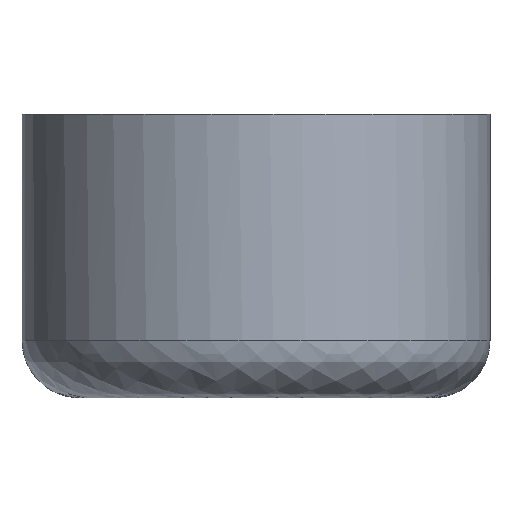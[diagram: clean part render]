
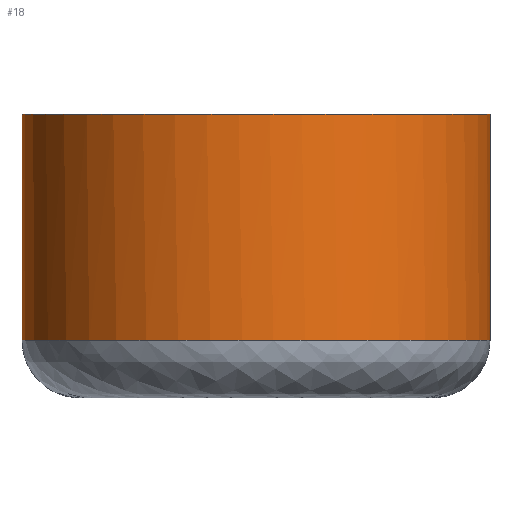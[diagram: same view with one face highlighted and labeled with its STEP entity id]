
A CAD part, front view. The second image highlights one B-rep face of the part: STEP entity #18.
In plain terms, the highlighted free-form (B-spline) face has degree [2, 1] with [5, 2] control points.
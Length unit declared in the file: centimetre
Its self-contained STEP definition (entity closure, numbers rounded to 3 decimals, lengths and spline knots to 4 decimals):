
#18=ADVANCED_FACE('',(#33),#197,.T.);
#33=FACE_OUTER_BOUND('',#48,.T.);
#48=EDGE_LOOP('',(#70,#71,#72,#73));
#70=ORIENTED_EDGE('',*,*,#127,.T.);
#71=ORIENTED_EDGE('',*,*,#122,.F.);
#72=ORIENTED_EDGE('',*,*,#128,.T.);
#73=ORIENTED_EDGE('',*,*,#120,.F.);
#120=EDGE_CURVE('',#177,#178,#151,.T.);
#122=EDGE_CURVE('',#179,#180,#153,.T.);
#127=EDGE_CURVE('',#177,#180,#158,.T.);
#128=EDGE_CURVE('',#179,#178,#159,.T.);
#151=(
BOUNDED_CURVE()
B_SPLINE_CURVE(1,(#746,#747),.UNSPECIFIED.,.F.,.F.)
B_SPLINE_CURVE_WITH_KNOTS((2,2),(0.7762,2.37),.UNSPECIFIED.)
CURVE()
GEOMETRIC_REPRESENTATION_ITEM()
RATIONAL_B_SPLINE_CURVE((1.,1.))
REPRESENTATION_ITEM('')
);
#153=(
BOUNDED_CURVE()
B_SPLINE_CURVE(1,(#753,#754),.UNSPECIFIED.,.F.,.F.)
B_SPLINE_CURVE_WITH_KNOTS((2,2),(-2.37,-0.7762),
 .UNSPECIFIED.)
CURVE()
GEOMETRIC_REPRESENTATION_ITEM()
RATIONAL_B_SPLINE_CURVE((1.,1.))
REPRESENTATION_ITEM('')
);
#158=(
BOUNDED_CURVE()
B_SPLINE_CURVE(2,(#771,#772,#773,#774,#775),.UNSPECIFIED.,.F.,.F.)
B_SPLINE_CURVE_WITH_KNOTS((3,2,3),(12.5661,18.8491,25.1321),
 .UNSPECIFIED.)
CURVE()
GEOMETRIC_REPRESENTATION_ITEM()
RATIONAL_B_SPLINE_CURVE((1.,0.707,1.,0.707,1.))
REPRESENTATION_ITEM('')
);
#159=(
BOUNDED_CURVE()
B_SPLINE_CURVE(2,(#776,#777,#778,#779,#780),.UNSPECIFIED.,.F.,.F.)
B_SPLINE_CURVE_WITH_KNOTS((3,2,3),(-31.4159,-23.5619,
-15.708),.UNSPECIFIED.)
CURVE()
GEOMETRIC_REPRESENTATION_ITEM()
RATIONAL_B_SPLINE_CURVE((1.,0.707,1.,0.707,1.))
REPRESENTATION_ITEM('')
);
#177=VERTEX_POINT('',#677);
#178=VERTEX_POINT('',#678);
#179=VERTEX_POINT('',#679);
#180=VERTEX_POINT('',#680);
#197=(
BOUNDED_SURFACE()
B_SPLINE_SURFACE(2,1,((#560,#561),(#562,#563),(#564,#565),(#566,#567),(#568,
#569)),.UNSPECIFIED.,.F.,.F.,.F.)
B_SPLINE_SURFACE_WITH_KNOTS((3,2,3),(2,2),(15.708,23.5619,
31.4159),(0.7762,2.37),.UNSPECIFIED.)
GEOMETRIC_REPRESENTATION_ITEM()
RATIONAL_B_SPLINE_SURFACE(((1.,1.),(0.707,0.707),
(1.,1.),(0.707,0.707),(1.,1.)))
REPRESENTATION_ITEM('')
SURFACE()
);
#560=CARTESIAN_POINT('',(-16.1425,0.,1.3));
#561=CARTESIAN_POINT('',(-16.1425,0.,6.4238));
#562=CARTESIAN_POINT('',(-16.1425,-5.3,1.3));
#563=CARTESIAN_POINT('',(-16.1425,-5.3,6.4238));
#564=CARTESIAN_POINT('',(-10.8425,-5.3,1.3));
#565=CARTESIAN_POINT('',(-10.8425,-5.3,6.4238));
#566=CARTESIAN_POINT('',(-5.5425,-5.3,1.3));
#567=CARTESIAN_POINT('',(-5.5425,-5.3,6.4238));
#568=CARTESIAN_POINT('',(-5.5425,0.,1.3));
#569=CARTESIAN_POINT('',(-5.5425,0.,6.4238));
#677=CARTESIAN_POINT('',(-16.1425,0.,1.3));
#678=CARTESIAN_POINT('',(-16.1425,0.,6.4238));
#679=CARTESIAN_POINT('',(-5.5425,0.,6.4238));
#680=CARTESIAN_POINT('',(-5.5425,0.,1.3));
#746=CARTESIAN_POINT('',(-16.1425,0.,1.3));
#747=CARTESIAN_POINT('',(-16.1425,0.,6.4238));
#753=CARTESIAN_POINT('',(-5.5425,0.,6.4238));
#754=CARTESIAN_POINT('',(-5.5425,0.,1.3));
#771=CARTESIAN_POINT('',(-16.1425,0.,1.3));
#772=CARTESIAN_POINT('',(-16.1425,-5.3,1.3));
#773=CARTESIAN_POINT('',(-10.8425,-5.3,1.3));
#774=CARTESIAN_POINT('',(-5.5425,-5.3,1.3));
#775=CARTESIAN_POINT('',(-5.5425,0.,1.3));
#776=CARTESIAN_POINT('',(-5.5425,0.,6.4238));
#777=CARTESIAN_POINT('',(-5.5425,-5.3,6.4238));
#778=CARTESIAN_POINT('',(-10.8425,-5.3,6.4238));
#779=CARTESIAN_POINT('',(-16.1425,-5.3,6.4238));
#780=CARTESIAN_POINT('',(-16.1425,0.,6.4238));
